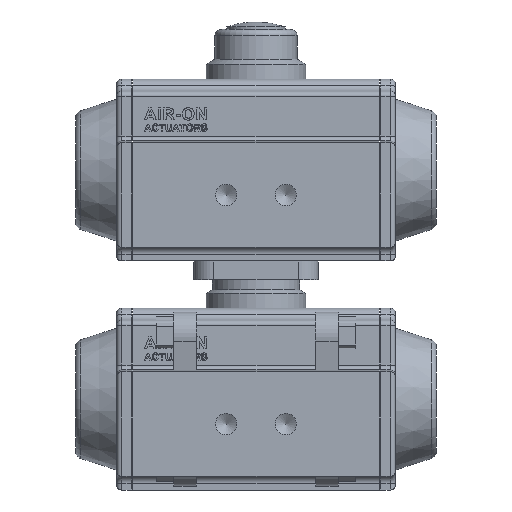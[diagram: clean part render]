
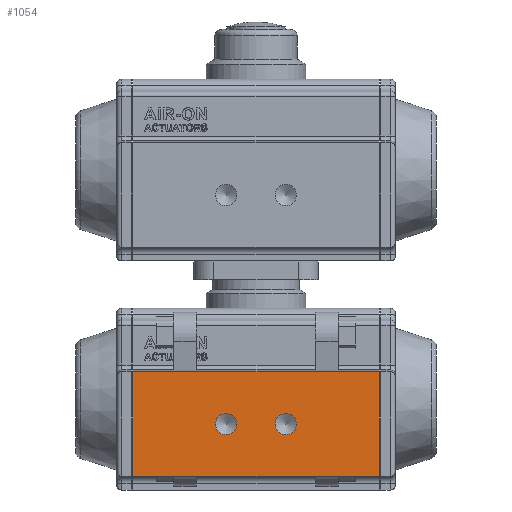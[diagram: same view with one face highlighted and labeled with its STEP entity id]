
A CAD part, front view. The second image highlights one B-rep face of the part: STEP entity #1054.
In plain terms, the highlighted planar face has unit normal (0, -1, 0).
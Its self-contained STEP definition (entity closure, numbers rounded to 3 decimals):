
#1054 = ADVANCED_FACE( '', ( #2480, #2481, #2482 ), #2483, .T. );
#2480 = FACE_BOUND( '', #5161, .T. );
#2481 = FACE_BOUND( '', #5162, .T. );
#2482 = FACE_OUTER_BOUND( '', #5163, .T. );
#2483 = PLANE( '', #5164 );
#5161 = EDGE_LOOP( '', ( #9592 ) );
#5162 = EDGE_LOOP( '', ( #9593 ) );
#5163 = EDGE_LOOP( '', ( #9594, #9595, #9596, #9597 ) );
#5164 = AXIS2_PLACEMENT_3D( '', #9598, #9599, #9600 );
#9592 = ORIENTED_EDGE( '', *, *, #13841, .T. );
#9593 = ORIENTED_EDGE( '', *, *, #13842, .T. );
#9594 = ORIENTED_EDGE( '', *, *, #12959, .F. );
#9595 = ORIENTED_EDGE( '', *, *, #13843, .F. );
#9596 = ORIENTED_EDGE( '', *, *, #13279, .T. );
#9597 = ORIENTED_EDGE( '', *, *, #13844, .T. );
#9598 = CARTESIAN_POINT( '', ( 49.5, -42., -31. ) );
#9599 = DIRECTION( '', ( 0., -1., 0. ) );
#9600 = DIRECTION( '', ( 0., 0., -1. ) );
#12959 = EDGE_CURVE( '', #14952, #14954, #14955, .T. );
#13279 = EDGE_CURVE( '', #15514, #15512, #15515, .T. );
#13841 = EDGE_CURVE( '', #16381, #16381, #16382, .T. );
#13842 = EDGE_CURVE( '', #16383, #16383, #16384, .T. );
#13843 = EDGE_CURVE( '', #15514, #14952, #16385, .T. );
#13844 = EDGE_CURVE( '', #15512, #14954, #16386, .T. );
#14952 = VERTEX_POINT( '', #17937 );
#14954 = VERTEX_POINT( '', #17940 );
#14955 = LINE( '', #17941, #17942 );
#15512 = VERTEX_POINT( '', #19090 );
#15514 = VERTEX_POINT( '', #19093 );
#15515 = LINE( '', #19094, #19095 );
#16381 = VERTEX_POINT( '', #21512 );
#16382 = CIRCLE( '', #21513, 4.283 );
#16383 = VERTEX_POINT( '', #21514 );
#16384 = CIRCLE( '', #21515, 4.283 );
#16385 = LINE( '', #21516, #21517 );
#16386 = LINE( '', #21518, #21519 );
#17937 = CARTESIAN_POINT( '', ( -49.5, -42., -31. ) );
#17940 = CARTESIAN_POINT( '', ( -49.5, -42., 11. ) );
#17941 = CARTESIAN_POINT( '', ( -49.5, -42., -31. ) );
#17942 = VECTOR( '', #24748, 1000. );
#19090 = CARTESIAN_POINT( '', ( 49.5, -42., 11. ) );
#19093 = CARTESIAN_POINT( '', ( 49.5, -42., -31. ) );
#19094 = CARTESIAN_POINT( '', ( 49.5, -42., -31. ) );
#19095 = VECTOR( '', #25067, 1000. );
#21512 = CARTESIAN_POINT( '', ( -12., -42., -14.283 ) );
#21513 = AXIS2_PLACEMENT_3D( '', #25523, #25524, #25525 );
#21514 = CARTESIAN_POINT( '', ( 12., -42., -14.283 ) );
#21515 = AXIS2_PLACEMENT_3D( '', #25526, #25527, #25528 );
#21516 = CARTESIAN_POINT( '', ( 49.5, -42., -31. ) );
#21517 = VECTOR( '', #25529, 1000. );
#21518 = CARTESIAN_POINT( '', ( 49.5, -42., 11. ) );
#21519 = VECTOR( '', #25530, 1000. );
#24748 = DIRECTION( '', ( 0., 0., 1. ) );
#25067 = DIRECTION( '', ( 0., 0., 1. ) );
#25523 = CARTESIAN_POINT( '', ( -12., -42., -10. ) );
#25524 = DIRECTION( '', ( 0., 1., 0. ) );
#25525 = DIRECTION( '', ( 0., 0., -1. ) );
#25526 = CARTESIAN_POINT( '', ( 12., -42., -10. ) );
#25527 = DIRECTION( '', ( 0., 1., 0. ) );
#25528 = DIRECTION( '', ( 0., 0., -1. ) );
#25529 = DIRECTION( '', ( -1., 0., 0. ) );
#25530 = DIRECTION( '', ( -1., 0., 0. ) );
